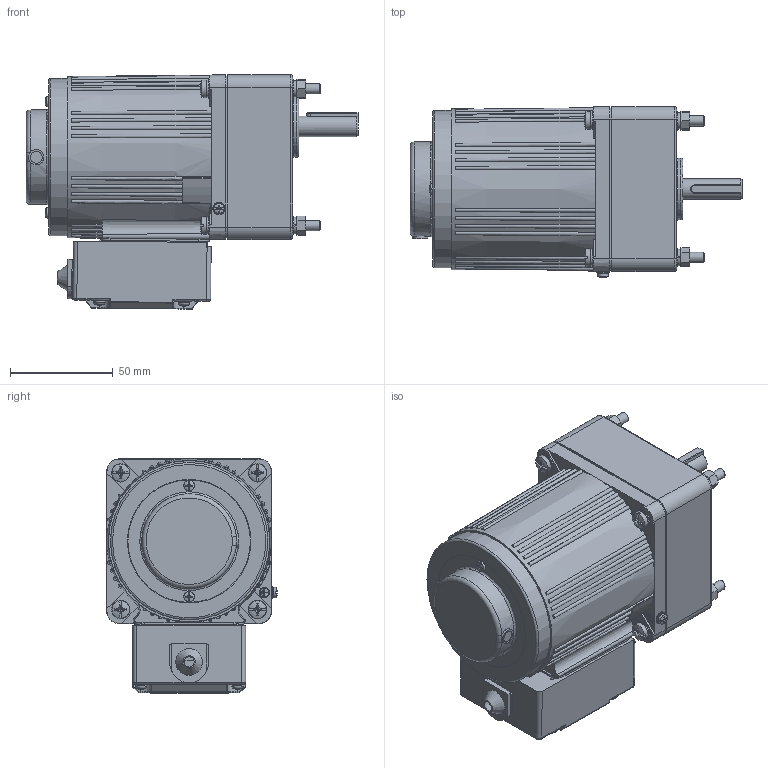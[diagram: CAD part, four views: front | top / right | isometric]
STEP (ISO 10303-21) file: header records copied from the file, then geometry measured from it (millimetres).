
FILE_DESCRIPTION(/* description */ (''),/* implementation_level */ '2;1');
FILE_NAME(/* name */ '4RK25-40GNC·T-4GN3-20K-C·10T长款接线盒.stp',/* time_stamp */ '2025-04-13T15:38:36+08:00',/* author */ (''),/* organization */ (''),/* preprocessor_version */ 'ST-DEVELOPER v18.102',/* originating_system */ 'SIEMENS PLM Software NX 2027',/* authorisation */ '');
FILE_SCHEMA (('AP203_CONFIGURATION_CONTROLLED_3D_DESIGN_OF_MECHANICAL_PARTS_AND_ASSEMBLIES_MIM_LF { 1 0 10303 403 2 1 2}'));
Products named in the file (1): 4RK25-40CC·R-4GN3-20K-C·10T_stp_objects
Bounding box: 161.3 x 82.78 x 113.83 mm (x, y, z)
Volume: 702432.3 mm3; surface area: 117559.6 mm2
Topology: 20 solids, 20 shells, 1629 faces, 4212 edges, 2684 vertices
Faces by surface type: plane 662, cylinder 399, bspline 284, cone 146, torus 100, sphere 38
Full cylindrical faces by diameter (mm): 2.2 x2, 2.6 x1, 2.7 x1, 2.9 x4, 3.2 x1, 3.5 x2, 4 x1, 4.2 x1, 4.351 x4, 4.4 x1, 4.6 x4, 4.8 x1, 5 x5, 5.1 x3, 5.3 x8, 5.6 x4, 5.8 x1, 6 x11, 6.5 x4, 7 x1, 7.4 x1, 8 x1, 8.2 x1, 8.5 x4, 9 x8, 10 x3, 10.5 x1, 19 x1, 26 x1, 30 x1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
Entity records: 56253 total; most frequent: CARTESIAN_POINT 20001, ORIENTED_EDGE 7892, DIRECTION 6461, EDGE_CURVE 3946, VERTEX_POINT 2613, AXIS2_PLACEMENT_3D 2510, EDGE_LOOP 1938, ADVANCED_FACE 1627
